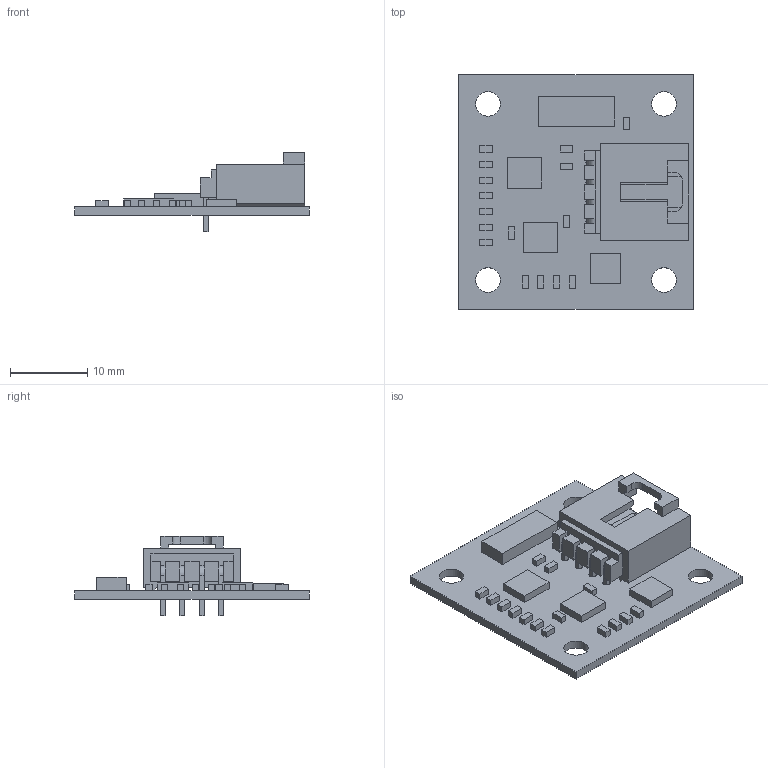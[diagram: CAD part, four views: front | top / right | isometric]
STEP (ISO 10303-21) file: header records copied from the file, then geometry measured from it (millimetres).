
FILE_DESCRIPTION(('Open CASCADE Model'),'2;1');
FILE_NAME('Open CASCADE Shape Model','2010-10-27T13:06:04',('Author'),( 'Open CASCADE'),'Open CASCADE STEP processor 6.2','Open CASCADE 6.2' ,'Unknown');
FILE_SCHEMA(('AUTOMOTIVE_DESIGN { 1 0 10303 214 1 1 1 1 }'));
Length unit declared in the file: millimetre
Products named in the file (36): PCB; Board; J1; 705530108; Open CASCADE STEP translator 6.2 215.2.1.1; Open CASCADE STEP translator 6.2 215.2.1.2; C1; 489472960; Extruded; C2; C3; 489473088; C4; C5; C6; C7; C8; C9; C10; C11; R1; R2; R3; R4; R5; U1; 489480384; U2; 489472576; U4; 603634320; U5
Assembly tree (50 placements, depth 4):
  PCB
    Board
    J1
      705530108
        Open CASCADE STEP translator 6.2 215.2.1.1
        Open CASCADE STEP translator 6.2 215.2.1.2
    C1
      489472960
        Extruded
    C2
      489472960
        Extruded
    C3
      489473088
        Extruded
    C4
      489473088
        Extruded
    C5
      489473088
        Extruded
    C6
      489473088
        Extruded
    C7
      489473088
        Extruded
    C8
      489473088
        Extruded
    C9
      489472960
        Extruded
    C10
      489472960
        Extruded
    C11
      489472960
        Extruded
    R1
      489472960
        Extruded
    R2
      489473088
        Extruded
    R3
      489472960
        Extruded
    R4
      489472960
        Extruded
    R5
      489472960
        Extruded
    U1
      489480384
        Extruded
    U2
      489472576
        Extruded
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Bounding box: 30.48 x 30.48 x 10.29 mm (x, y, z)
Volume: 1633.6 mm3; surface area: 3328.9 mm2
Topology: 22 solids, 22 shells, 271 faces, 657 edges, 444 vertices
Faces by surface type: plane 253, cylinder 18
Full cylindrical faces by diameter (mm): 0.965 x4, 3.175 x4
Entity records: 12417 total; most frequent: CARTESIAN_POINT 2149, DIRECTION 1853, LINE 1289, VECTOR 1289, ORIENTED_EDGE 932, PCURVE 932, DEFINITIONAL_REPRESENTATION 932, EDGE_CURVE 466
